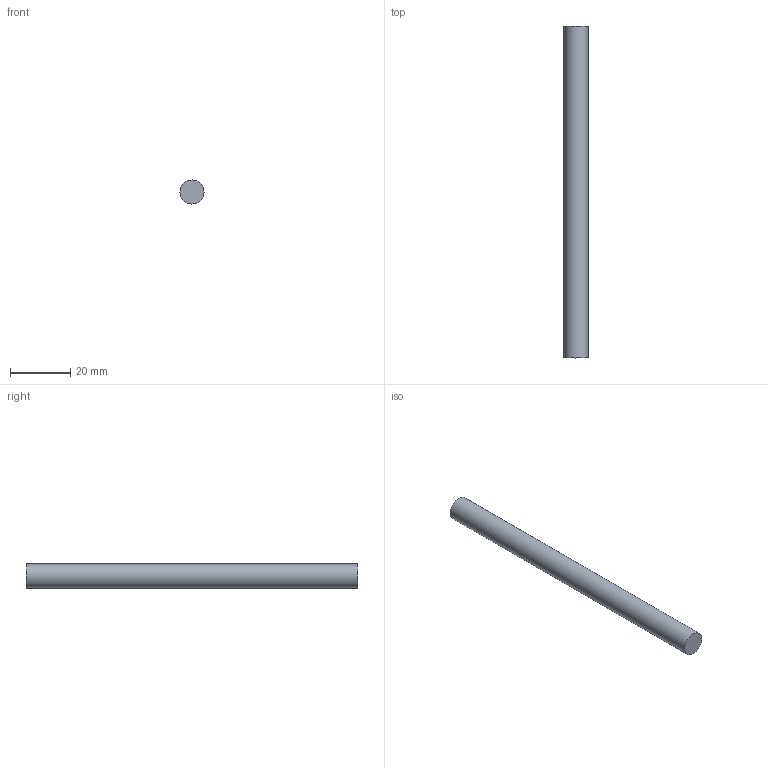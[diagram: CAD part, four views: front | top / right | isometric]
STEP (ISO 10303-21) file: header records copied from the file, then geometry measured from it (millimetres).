
FILE_DESCRIPTION(('Open CASCADE Model'),'2;1');
FILE_NAME('Open CASCADE Shape Model','2026-10-16T20:39:04',('Author'),( 'Open CASCADE'),'Open CASCADE STEP processor 7.8','Open CASCADE 7.8' ,'Unknown');
FILE_SCHEMA(('AUTOMOTIVE_DESIGN { 1 0 10303 214 1 1 1 1 }'));
Length unit declared in the file: millimetre
Products named in the file (1): Open CASCADE STEP translator 7.8 2
Bounding box: 8 x 110 x 8 mm (x, y, z)
Volume: 5529.2 mm3; surface area: 2865.1 mm2
Topology: 1 solids, 1 shells, 3 faces, 3 edges, 2 vertices
Faces by surface type: plane 2, cylinder 1
Full cylindrical faces by diameter (mm): 8 x1
Entity records: 108 total; most frequent: DIRECTION 19, CARTESIAN_POINT 15, AXIS2_PLACEMENT_3D 6, ORIENTED_EDGE 6, PCURVE 6, DEFINITIONAL_REPRESENTATION 6, LINE 5, VECTOR 5
